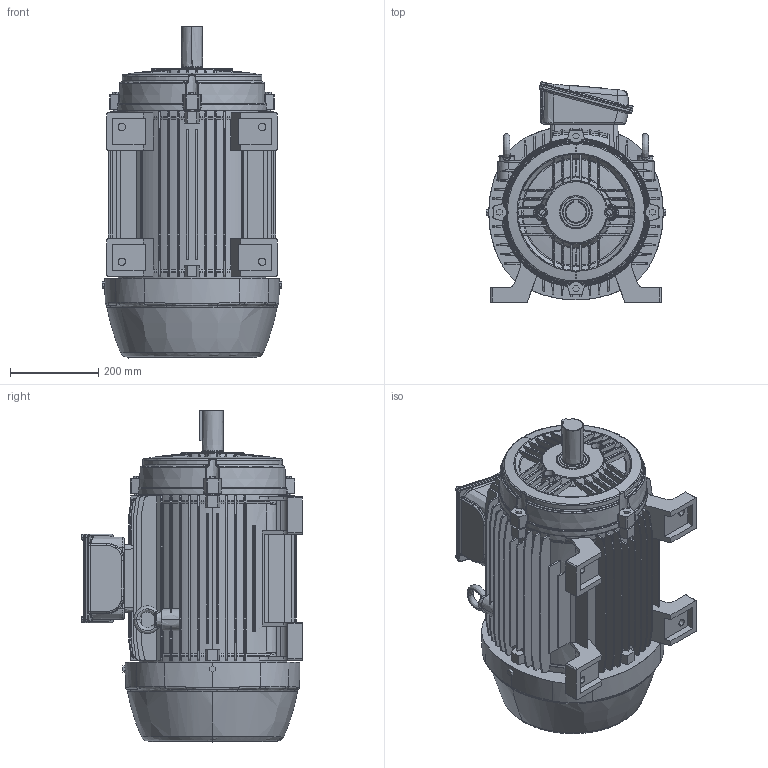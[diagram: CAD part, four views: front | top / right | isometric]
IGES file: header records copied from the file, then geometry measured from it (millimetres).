
Start section: SolidWorks IGES file using analytic representation for surfaces
Global section: file name: Y:\NEMA\W21\15_FRAME_326TS\STANDARD\IGS\326TS_TOP.IGS; native system: SolidWorks 2006 by SolidWorks Corporation; preprocessor: SolidWorks 2006 by SolidWorks Corporation; author: ricardov; date: 060807.114153; units: millimetre
Bounding box: 406 x 499.44 x 751.15 mm (x, y, z)
Surface area: 2023784.8 mm2 (no closed solid volume)
Topology: 0 solids, 0 shells, 2090 faces, 23495 edges, 23468 vertices
Faces by surface type: bspline 1309, revolution 781
